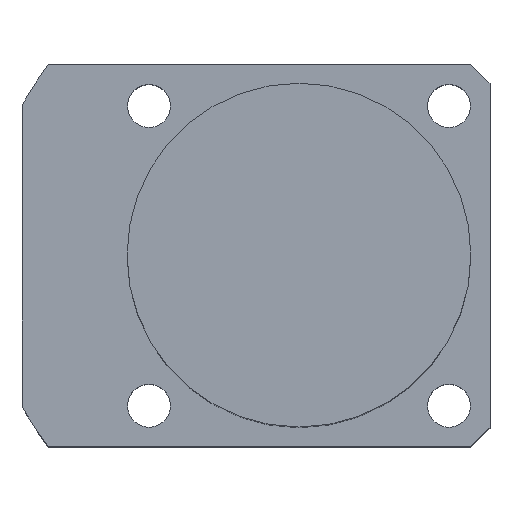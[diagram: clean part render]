
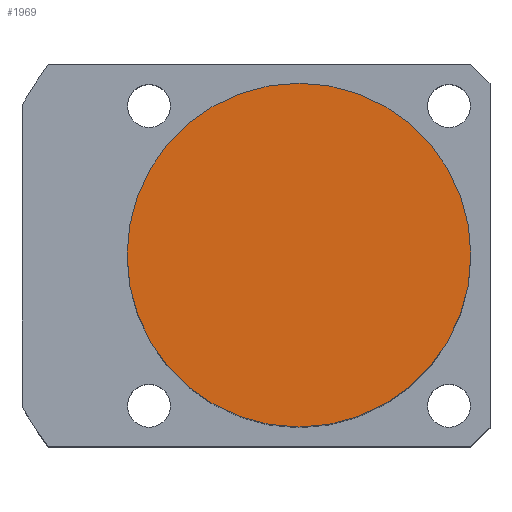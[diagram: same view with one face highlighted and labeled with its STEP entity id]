
A CAD part, top view. The second image highlights one B-rep face of the part: STEP entity #1969.
In plain terms, the highlighted planar face has unit normal (0, 0, 1).
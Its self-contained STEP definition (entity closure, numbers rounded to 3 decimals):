
#1911=CARTESIAN_POINT('',(-0.0,18.0,53.5));
#1912=VERTEX_POINT('',#1911);
#1919=CARTESIAN_POINT('',(18.0,0.0,53.5));
#1920=VERTEX_POINT('',#1919);
#1921=CARTESIAN_POINT('',(0.0,0.0,53.5));
#1922=DIRECTION('',(0.0,0.0,1.0));
#1923=DIRECTION('',(1.0,0.0,0.0));
#1924=AXIS2_PLACEMENT_3D('',#1921,#1922,#1923);
#1925=CIRCLE('',#1924,18.0);
#1926=EDGE_CURVE('no 2141',#1920,#1912,#1925,.T.);
#1928=CARTESIAN_POINT('',(-0.0,-18.0,53.5));
#1929=VERTEX_POINT('',#1928);
#1930=CARTESIAN_POINT('',(0.0,0.0,53.5));
#1931=DIRECTION('',(0.0,0.0,1.0));
#1932=DIRECTION('',(1.0,0.0,0.0));
#1933=AXIS2_PLACEMENT_3D('',#1930,#1931,#1932);
#1934=CIRCLE('',#1933,18.0);
#1935=EDGE_CURVE('no 2147',#1929,#1920,#1934,.T.);
#1953=ORIENTED_EDGE('',*,*,#1926,.T.);
#1954=CARTESIAN_POINT('',(0.0,0.0,53.5));
#1955=DIRECTION('',(0.0,0.0,1.0));
#1956=DIRECTION('',(1.0,0.0,0.0));
#1957=AXIS2_PLACEMENT_3D('',#1954,#1955,#1956);
#1958=CIRCLE('',#1957,18.0);
#1959=EDGE_CURVE('no 2164',#1912,#1929,#1958,.T.);
#1960=ORIENTED_EDGE('',*,*,#1959,.T.);
#1961=ORIENTED_EDGE('',*,*,#1935,.T.);
#1962=EDGE_LOOP('',(#1953,#1960,#1961));
#1963=FACE_OUTER_BOUND('',#1962,.T.);
#1964=CARTESIAN_POINT('',(0.0,0.0,53.5));
#1965=DIRECTION('',(0.0,0.0,1.0));
#1966=DIRECTION('',(1.0,0.0,0.0));
#1967=AXIS2_PLACEMENT_3D('',#1964,#1965,#1966);
#1968=PLANE('',#1967);
#1969=ADVANCED_FACE('no 2157',(#1963),#1968,.T.);
